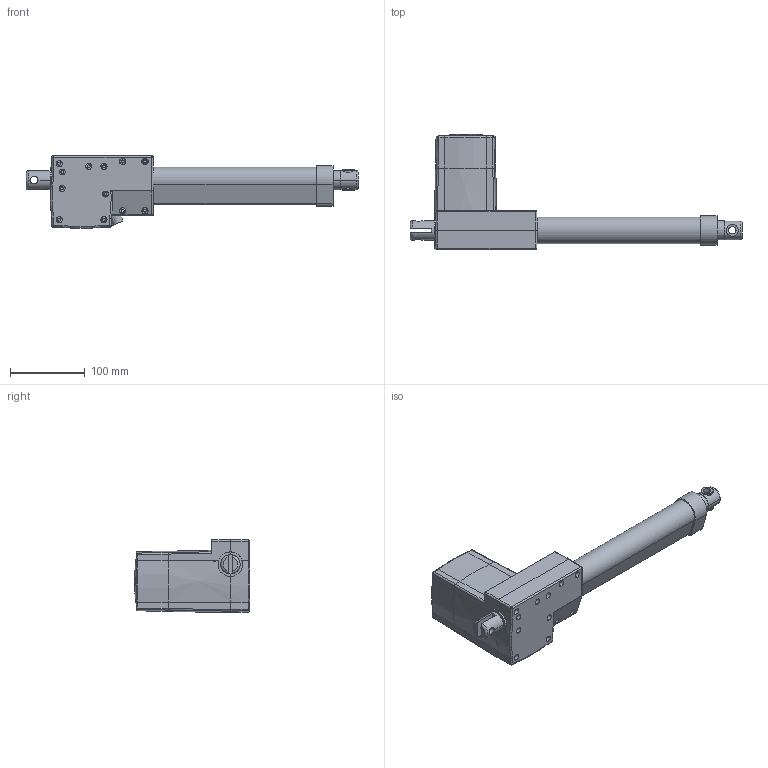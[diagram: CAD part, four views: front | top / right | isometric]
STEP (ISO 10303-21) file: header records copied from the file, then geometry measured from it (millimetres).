
FILE_DESCRIPTION((''),'2;1');
FILE_NAME('LAM3-S100_ASM','2007-07-12T',('amyliao'),(''),'PRO/ENGINEER BY PARAMETRIC TECHNOLOGY CORPORATION, 2003210','PRO/ENGINEER BY PARAMETRIC TECHNOLOGY CORPORATION, 2003210','');
FILE_SCHEMA(('CONFIG_CONTROL_DESIGN'));
Length unit declared in the file: millimetre
Products named in the file (11): LAM3-COVER-01; LAM3-100; M3-OUT-TUBE-COVER; LAM3-IN-TUBE; LAM3-IN-NUT; LAM3-05; LAM3-100_ASM; LAM3_MOTOR_COVER3_1_0430; LAM3-COVER-03; LAM3-04; LAM3-S100_ASM
Assembly tree (11 placements, depth 3):
  LAM3-S100_ASM
    LAM3-COVER-01
    LAM3-100_ASM
      LAM3-100
      M3-OUT-TUBE-COVER
      LAM3-IN-TUBE
      LAM3-IN-NUT
      LAM3-05  x2
    LAM3_MOTOR_COVER3_1_0430
    LAM3-COVER-03
    LAM3-04
Bounding box: 445 x 155 x 97.78 mm (x, y, z)
Volume: 645653.9 mm3; surface area: 292928.1 mm2
Topology: 10 solids, 10 shells, 746 faces, 2031 edges, 1330 vertices
Faces by surface type: plane 402, cylinder 220, cone 81, sphere 24, torus 15, bspline 4
Entity records: 25024 total; most frequent: CARTESIAN_POINT 5824, ORIENTED_EDGE 4014, DIRECTION 4007, EDGE_CURVE 2007, AXIS2_PLACEMENT_3D 1515, VERTEX_POINT 1318, VECTOR 977, LINE 977
